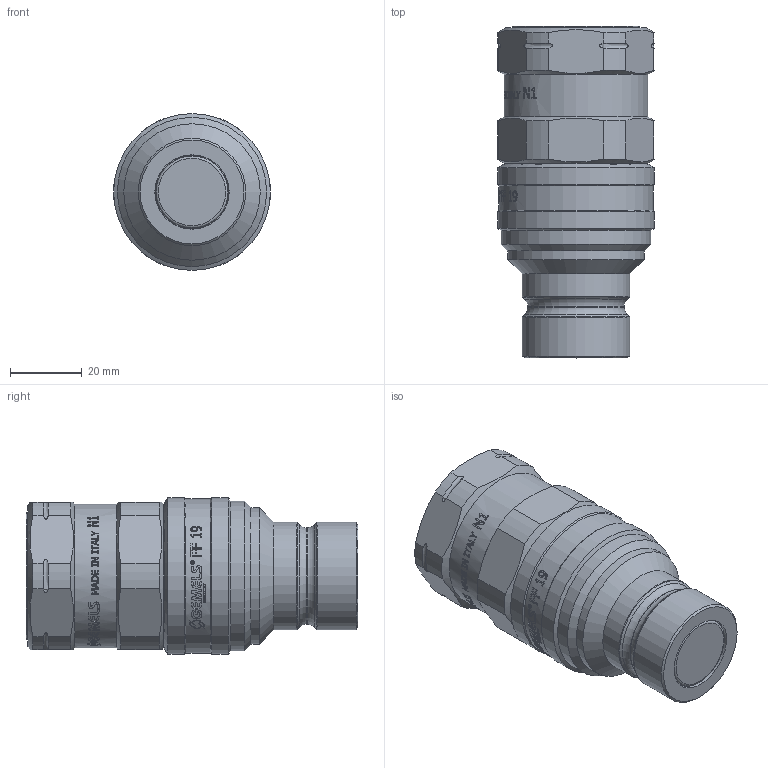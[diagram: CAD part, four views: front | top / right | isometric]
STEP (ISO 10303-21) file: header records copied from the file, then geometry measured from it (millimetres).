
FILE_DESCRIPTION(/* description */ (''),/* implementation_level */ '2;1');
FILE_NAME(/* name */ 'NC05N050000.stp',/* time_stamp */ '2024-08-26T15:51:49+02:00',/* author */ ('thomas.belotti'),/* organization */ (''),/* preprocessor_version */ 'ST-DEVELOPER v20',/* originating_system */ 'Autodesk Inventor 2024',/* authorisation */ '');
FILE_SCHEMA (('AUTOMOTIVE_DESIGN { 1 0 10303 214 3 1 1 }'));
Length unit declared in the file: millimetre
Products named in the file (1): Parte16
Bounding box: 43.73 x 92.5 x 43.7 mm (x, y, z)
Volume: 93507.2 mm3; surface area: 18703.1 mm2
Topology: 1 solids, 3 shells, 1191 faces, 3344 edges, 2225 vertices
Faces by surface type: bspline 711, plane 359, cylinder 93, cone 17, torus 11
Full cylindrical faces by diameter (mm): 20.7 x1, 23 x1, 26.9 x1, 28.575 x1, 29 x1, 29.95 x2, 31 x1, 35.5 x1, 37 x1, 37.3 x1, 38.05 x1, 40 x1, 41.6 x1, 43 x1, 43.7 x2
Entity records: 50195 total; most frequent: CARTESIAN_POINT 22809, ORIENTED_EDGE 6688, EDGE_CURVE 3344, DIRECTION 3296, VERTEX_POINT 2225, B_SPLINE_CURVE_WITH_KNOTS 1465, LINE 1368, VECTOR 1368
